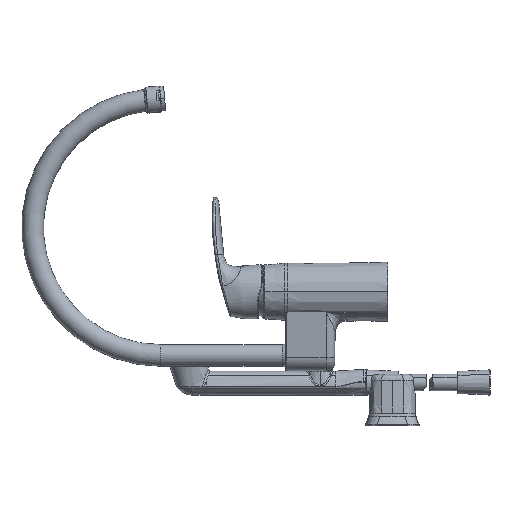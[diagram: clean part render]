
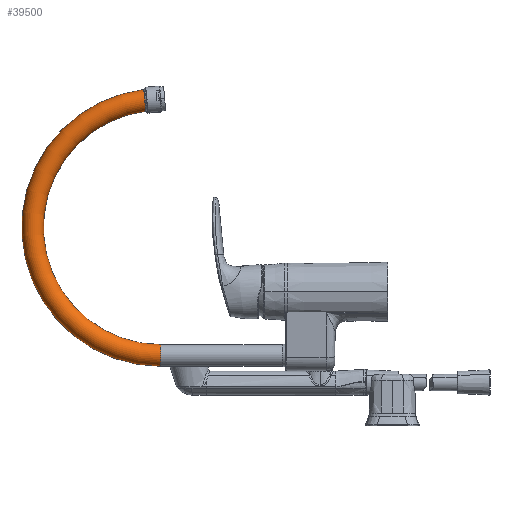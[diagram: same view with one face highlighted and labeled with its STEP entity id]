
A CAD part, left-side view. The second image highlights one B-rep face of the part: STEP entity #39500.
In plain terms, the highlighted toroidal (fillet/blend) face has major radius 118 mm and minor radius 10 mm.
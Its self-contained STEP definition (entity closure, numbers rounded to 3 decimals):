
#4439 = CIRCLE ( 'NONE', #60513, 128. ) ;
#4605 = CARTESIAN_POINT ( 'NONE',  ( 0., 209.7, -58.6 ) ) ;
#5025 = VERTEX_POINT ( 'NONE', #87943 ) ;
#5219 = CARTESIAN_POINT ( 'NONE',  ( -2.28, 223.469, 166.779 ) ) ;
#5602 = CARTESIAN_POINT ( 'NONE',  ( -5.02, 223.562, 167.845 ) ) ;
#6316 = CARTESIAN_POINT ( 'NONE',  ( -6.099, 225.012, 184.417 ) ) ;
#6668 = CARTESIAN_POINT ( 'NONE',  ( -1.635, 225.179, 186.33 ) ) ;
#7496 = EDGE_LOOP ( 'NONE', ( #26766, #91664, #100335, #25623 ) ) ;
#10049 = DIRECTION ( 'NONE',  ( -1., 0., 0. ) ) ;
#12382 = DIRECTION ( 'NONE',  ( 0., -1., 0. ) ) ;
#12986 = CARTESIAN_POINT ( 'NONE',  ( -2.598, 223.476, 166.858 ) ) ;
#13351 = EDGE_CURVE ( 'NONE', #5025, #97777, #37799, .T. ) ;
#13736 = CARTESIAN_POINT ( 'NONE',  ( -9.49, 224.599, 179.702 ) ) ;
#14095 = CARTESIAN_POINT ( 'NONE',  ( 0., 209.7, -48.6 ) ) ;
#14109 = CARTESIAN_POINT ( 'NONE',  ( -9.746, 224.121, 174.235 ) ) ;
#15193 = CARTESIAN_POINT ( 'NONE',  ( 0., 225.191, 186.459 ) ) ;
#21133 = CARTESIAN_POINT ( 'NONE',  ( -9.666, 224.093, 173.914 ) ) ;
#21870 = CARTESIAN_POINT ( 'NONE',  ( -7.541, 223.743, 169.912 ) ) ;
#22244 = CARTESIAN_POINT ( 'NONE',  ( -3.54, 223.502, 167.161 ) ) ;
#22618 = CARTESIAN_POINT ( 'NONE',  ( -8.972, 224.705, 180.906 ) ) ;
#24404 = CARTESIAN_POINT ( 'NONE',  ( -4.128, 225.113, 185.576 ) ) ;
#25549 = CARTESIAN_POINT ( 'NONE',  ( 0., 225.191, 186.459 ) ) ;
#25623 = ORIENTED_EDGE ( 'NONE', *, *, #13351, .F. ) ;
#26766 = ORIENTED_EDGE ( 'NONE', *, *, #77008, .T. ) ;
#29658 = EDGE_CURVE ( 'NONE', #47421, #41183, #4439, .T. ) ;
#30355 = CARTESIAN_POINT ( 'NONE',  ( -9.257, 223.985, 172.678 ) ) ;
#30715 = CARTESIAN_POINT ( 'NONE',  ( -7.952, 224.85, 182.571 ) ) ;
#31429 = CARTESIAN_POINT ( 'NONE',  ( -4.428, 225.101, 185.435 ) ) ;
#32516 = CARTESIAN_POINT ( 'NONE',  ( -5.007, 225.074, 185.126 ) ) ;
#35827 = TOROIDAL_SURFACE ( 'NONE', #64409, 118., 10. ) ;
#35879 = DIRECTION ( 'NONE',  ( 0., 0., 1. ) ) ;
#37132 = DIRECTION ( 'NONE',  ( 0., 0., 1. ) ) ;
#37799 = CIRCLE ( 'NONE', #38694, 108. ) ;
#38088 = CARTESIAN_POINT ( 'NONE',  ( -7.955, 223.787, 170.414 ) ) ;
#38453 = CARTESIAN_POINT ( 'NONE',  ( -6.101, 223.627, 168.585 ) ) ;
#38694 = AXIS2_PLACEMENT_3D ( 'NONE', #68737, #10049, #69094 ) ;
#38826 = CARTESIAN_POINT ( 'NONE',  ( -9.934, 224.433, 177.804 ) ) ;
#39500 = ADVANCED_FACE ( 'NONE', ( #92563 ), #35827, .T. ) ;
#39554 = CARTESIAN_POINT ( 'NONE',  ( -2.597, 225.163, 186.139 ) ) ;
#41183 = VERTEX_POINT ( 'NONE', #71364 ) ;
#46223 = CARTESIAN_POINT ( 'NONE',  ( -6.604, 224.976, 184.005 ) ) ;
#47326 = CARTESIAN_POINT ( 'NONE',  ( -8.979, 223.933, 172.091 ) ) ;
#47421 = VERTEX_POINT ( 'NONE', #25549 ) ;
#48763 = CARTESIAN_POINT ( 'NONE',  ( -1.309, 225.184, 186.379 ) ) ;
#52023 = CIRCLE ( 'NONE', #73158, 10. ) ;
#55416 = CARTESIAN_POINT ( 'NONE',  ( -6.851, 223.682, 169.221 ) ) ;
#55782 = CARTESIAN_POINT ( 'NONE',  ( -10., 224.376, 177.144 ) ) ;
#56143 = CARTESIAN_POINT ( 'NONE',  ( -0.653, 223.448, 166.537 ) ) ;
#60513 = AXIS2_PLACEMENT_3D ( 'NONE', #95279, #95648, #35879 ) ;
#61381 = DIRECTION ( 'NONE',  ( -1., 0., 0. ) ) ;
#63179 = CARTESIAN_POINT ( 'NONE',  ( -9.476, 224.038, 173.29 ) ) ;
#63921 = CARTESIAN_POINT ( 'NONE',  ( -1.308, 223.453, 166.602 ) ) ;
#64288 = CARTESIAN_POINT ( 'NONE',  ( -4.447, 223.535, 167.538 ) ) ;
#64409 = AXIS2_PLACEMENT_3D ( 'NONE', #87196, #61381, #78362 ) ;
#65388 = CARTESIAN_POINT ( 'NONE',  ( -0.326, 225.191, 186.459 ) ) ;
#65741 = CARTESIAN_POINT ( 'NONE',  ( -3.22, 225.146, 185.951 ) ) ;
#68737 = CARTESIAN_POINT ( 'NONE',  ( 0., 209.7, 59.4 ) ) ;
#69094 = DIRECTION ( 'NONE',  ( 0., 0., 1. ) ) ;
#71364 = CARTESIAN_POINT ( 'NONE',  ( 0., 209.7, -68.6 ) ) ;
#71673 = CARTESIAN_POINT ( 'NONE',  ( -8.672, 223.883, 171.515 ) ) ;
#72043 = CARTESIAN_POINT ( 'NONE',  ( -5.835, 223.61, 168.389 ) ) ;
#72407 = CARTESIAN_POINT ( 'NONE',  ( -6.609, 223.663, 169.002 ) ) ;
#72762 = CARTESIAN_POINT ( 'NONE',  ( -8.662, 224.755, 181.482 ) ) ;
#73135 = CARTESIAN_POINT ( 'NONE',  ( -9.114, 224.679, 180.607 ) ) ;
#73158 = AXIS2_PLACEMENT_3D ( 'NONE', #4605, #12382, #37132 ) ;
#77008 = EDGE_CURVE ( 'NONE', #5025, #47421, #100772, .T. ) ;
#78362 = DIRECTION ( 'NONE',  ( 0., -1., 0. ) ) ;
#80139 = CARTESIAN_POINT ( 'NONE',  ( -10., 224.262, 175.844 ) ) ;
#80871 = CARTESIAN_POINT ( 'NONE',  ( -8.502, 223.858, 171.233 ) ) ;
#81235 = CARTESIAN_POINT ( 'NONE',  ( -8.494, 224.78, 181.761 ) ) ;
#87196 = CARTESIAN_POINT ( 'NONE',  ( 0., 209.7, 59.4 ) ) ;
#87943 = CARTESIAN_POINT ( 'NONE',  ( 0., 223.446, 166.522 ) ) ;
#88263 = CARTESIAN_POINT ( 'NONE',  ( -3.229, 223.492, 167.05 ) ) ;
#88633 = CARTESIAN_POINT ( 'NONE',  ( 0., 223.446, 166.522 ) ) ;
#89361 = CARTESIAN_POINT ( 'NONE',  ( -9.937, 224.205, 175.198 ) ) ;
#91664 = ORIENTED_EDGE ( 'NONE', *, *, #29658, .T. ) ;
#92563 = FACE_OUTER_BOUND ( 'NONE', #7496, .T. ) ;
#94301 = EDGE_CURVE ( 'NONE', #97777, #41183, #52023, .T. ) ;
#95279 = CARTESIAN_POINT ( 'NONE',  ( 0., 209.7, 59.4 ) ) ;
#95648 = DIRECTION ( 'NONE',  ( -1., 0., 0. ) ) ;
#96743 = CARTESIAN_POINT ( 'NONE',  ( -7.538, 224.894, 183.075 ) ) ;
#97096 = CARTESIAN_POINT ( 'NONE',  ( -9.679, 224.545, 179.081 ) ) ;
#97458 = CARTESIAN_POINT ( 'NONE',  ( -1.635, 223.458, 166.65 ) ) ;
#97777 = VERTEX_POINT ( 'NONE', #14095 ) ;
#99995 = CARTESIAN_POINT ( 'NONE',  ( -5.287, 225.059, 184.959 ) ) ;
#100335 = ORIENTED_EDGE ( 'NONE', *, *, #94301, .F. ) ;
#100772 = B_SPLINE_CURVE_WITH_KNOTS ( 'NONE', 3,
 ( #88633, #106660, #56143, #63921, #97458, #5219, #12986, #88263, #22244, #64288, #5602, #72043, #38453, #72407, #55416, #21870, #38088, #80871, #71673, #47326, #30355, #63179, #21133, #14109, #89361, #80139, #55782, #38826, #97096, #13736, #73135, #22618, #72762, #81235, #30715, #96743, #46223, #6316, #99995, #32516, #31429, #24404, #65741, #39554, #6668, #48763, #107744, #65388, #15193 ),
 .UNSPECIFIED., .F., .F.,
 ( 4, 2, 2, 2, 2, 2, 2, 2, 2, 2, 1, 2, 2, 2, 2, 2, 2, 2, 2, 2, 2, 2, 2, 2, 4 ),
 ( 0.059, 0.06, 0.061, 0.062, 0.063, 0.065, 0.066, 0.067, 0.069, 0.07, 0.071, 0.072, 0.073, 0.075, 0.077, 0.079, 0.08, 0.081, 0.083, 0.085, 0.086, 0.087, 0.089, 0.09, 0.091 ),
 .UNSPECIFIED. ) ;
#106660 = CARTESIAN_POINT ( 'NONE',  ( -0.326, 223.446, 166.522 ) ) ;
#107744 = CARTESIAN_POINT ( 'NONE',  ( -0.653, 225.189, 186.443 ) ) ;
